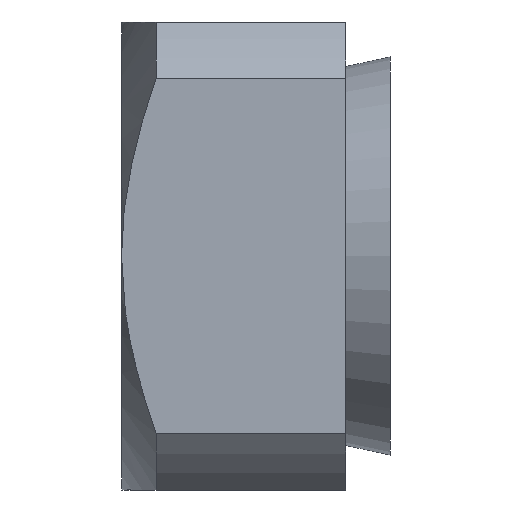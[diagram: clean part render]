
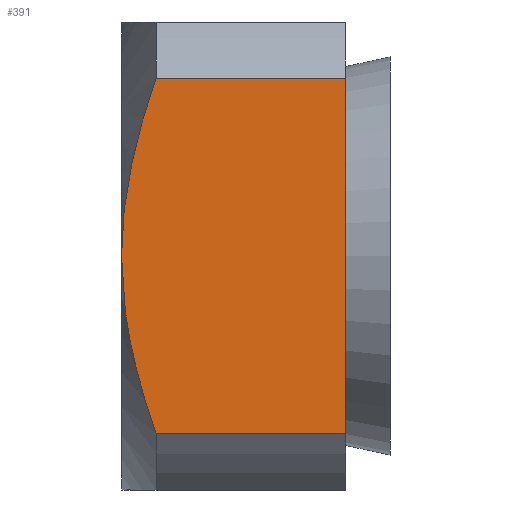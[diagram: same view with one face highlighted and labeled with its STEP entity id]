
A CAD part, left-side view. The second image highlights one B-rep face of the part: STEP entity #391.
In plain terms, the highlighted planar face has unit normal (-1, 0, 0).
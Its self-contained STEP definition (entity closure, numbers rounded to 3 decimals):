
#15=(
BOUNDED_CURVE()
B_SPLINE_CURVE(2,(#702,#703,#704),.UNSPECIFIED.,.F.,.F.)
B_SPLINE_CURVE_WITH_KNOTS((3,3),(0.197,0.971),
 .UNSPECIFIED.)
CURVE()
GEOMETRIC_REPRESENTATION_ITEM()
RATIONAL_B_SPLINE_CURVE((1.032,1.079,1.))
REPRESENTATION_ITEM('')
);
#16=(
BOUNDED_CURVE()
B_SPLINE_CURVE(2,(#705,#706,#707),.UNSPECIFIED.,.F.,.F.)
B_SPLINE_CURVE_WITH_KNOTS((3,3),(0.971,1.746),
 .UNSPECIFIED.)
CURVE()
GEOMETRIC_REPRESENTATION_ITEM()
RATIONAL_B_SPLINE_CURVE((1.,1.079,1.032))
REPRESENTATION_ITEM('')
);
#33=PLANE('',#465);
#60=FACE_OUTER_BOUND('',#88,.T.);
#88=EDGE_LOOP('',(#326,#327,#328,#329,#330));
#103=LINE('',#649,#121);
#112=LINE('',#690,#130);
#115=LINE('',#699,#133);
#121=VECTOR('',#527,10.);
#130=VECTOR('',#572,10.);
#133=VECTOR('',#581,10.);
#176=VERTEX_POINT('',#646);
#177=VERTEX_POINT('',#648);
#191=VERTEX_POINT('',#689);
#194=VERTEX_POINT('',#697);
#195=VERTEX_POINT('',#701);
#217=EDGE_CURVE('',#176,#177,#103,.T.);
#237=EDGE_CURVE('',#191,#177,#112,.T.);
#242=EDGE_CURVE('',#176,#194,#115,.T.);
#243=EDGE_CURVE('',#194,#195,#15,.T.);
#244=EDGE_CURVE('',#195,#191,#16,.T.);
#326=ORIENTED_EDGE('',*,*,#242,.T.);
#327=ORIENTED_EDGE('',*,*,#243,.T.);
#328=ORIENTED_EDGE('',*,*,#244,.T.);
#329=ORIENTED_EDGE('',*,*,#237,.T.);
#330=ORIENTED_EDGE('',*,*,#217,.F.);
#391=ADVANCED_FACE('',(#60),#33,.T.);
#465=AXIS2_PLACEMENT_3D('',#700,#582,#583);
#527=DIRECTION('',(0.,0.,-1.));
#572=DIRECTION('',(0.,-1.,0.));
#581=DIRECTION('',(0.,1.,0.));
#582=DIRECTION('center_axis',(-1.,0.,0.));
#583=DIRECTION('ref_axis',(0.,0.,-1.));
#646=CARTESIAN_POINT('',(-9.4,-9.,7.133));
#648=CARTESIAN_POINT('',(-9.4,-9.,-7.133));
#649=CARTESIAN_POINT('',(-9.4,-9.,-9.4));
#689=CARTESIAN_POINT('',(-9.4,-1.386,-7.133));
#690=CARTESIAN_POINT('',(-9.4,-4.5,-7.133));
#697=CARTESIAN_POINT('',(-9.4,-1.386,7.133));
#699=CARTESIAN_POINT('',(-9.4,-4.5,7.133));
#700=CARTESIAN_POINT('Origin',(-9.4,0.,9.4));
#701=CARTESIAN_POINT('',(-9.4,0.,0.));
#702=CARTESIAN_POINT('Ctrl Pts',(-9.4,-1.386,7.133));
#703=CARTESIAN_POINT('Ctrl Pts',(-9.4,0.,
3.163));
#704=CARTESIAN_POINT('Ctrl Pts',(-9.4,0.,
0.));
#705=CARTESIAN_POINT('Ctrl Pts',(-9.4,0.,
0.));
#706=CARTESIAN_POINT('Ctrl Pts',(-9.4,0.,
-3.163));
#707=CARTESIAN_POINT('Ctrl Pts',(-9.4,-1.386,-7.133));
